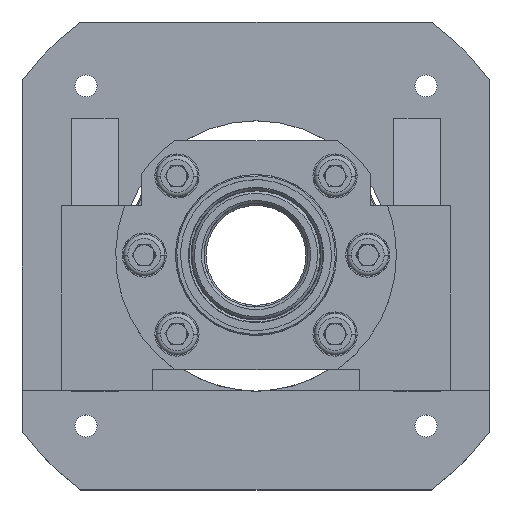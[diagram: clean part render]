
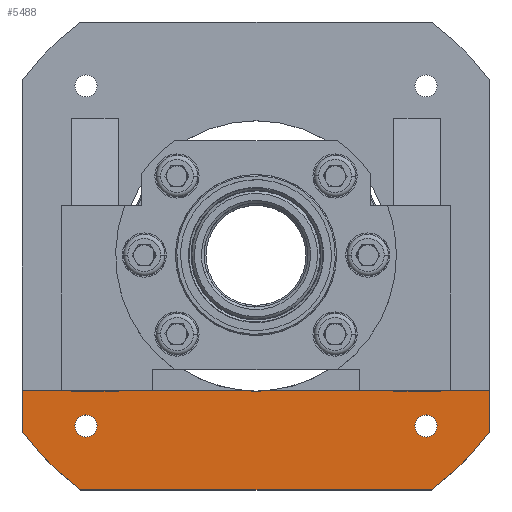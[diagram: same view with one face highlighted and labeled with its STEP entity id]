
A CAD part, top view. The second image highlights one B-rep face of the part: STEP entity #5488.
In plain terms, the highlighted planar face has unit normal (0, 0, 1).
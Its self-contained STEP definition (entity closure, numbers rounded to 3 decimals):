
#760 = ORIENTED_EDGE ( 'NONE', *, *, #22016, .T. ) ;
#838 = CIRCLE ( 'NONE', #15883, 52. ) ;
#989 = DIRECTION ( 'NONE',  ( 0., -1., 0. ) ) ;
#1119 = CIRCLE ( 'NONE', #3316, 112.5 ) ;
#1283 = CARTESIAN_POINT ( 'NONE',  ( 69.657, -65.407, 21. ) ) ;
#1373 = DIRECTION ( 'NONE',  ( 1., 0., 0. ) ) ;
#1604 = CARTESIAN_POINT ( 'NONE',  ( -67.5, -90., 21. ) ) ;
#1749 = VERTEX_POINT ( 'NONE', #4691 ) ;
#2008 = DIRECTION ( 'NONE',  ( 1., 0., 0. ) ) ;
#2418 = VECTOR ( 'NONE', #6231, 1000. ) ;
#2742 = CARTESIAN_POINT ( 'NONE',  ( 90., -51.7, 21. ) ) ;
#2813 = VERTEX_POINT ( 'NONE', #19422 ) ;
#2911 = FACE_BOUND ( 'NONE', #22142, .T. ) ;
#3316 = AXIS2_PLACEMENT_3D ( 'NONE', #25934, #13760, #1373 ) ;
#3357 = ORIENTED_EDGE ( 'NONE', *, *, #20098, .T. ) ;
#3571 = CARTESIAN_POINT ( 'NONE',  ( 61.157, -65.407, 21. ) ) ;
#4691 = CARTESIAN_POINT ( 'NONE',  ( 5.578, -51.7, 21. ) ) ;
#5488 = ADVANCED_FACE ( 'NONE', ( #13906, #2911, #18614 ), #17020, .T. ) ;
#5585 = VERTEX_POINT ( 'NONE', #2742 ) ;
#5609 = VERTEX_POINT ( 'NONE', #11186 ) ;
#5777 = VERTEX_POINT ( 'NONE', #25671 ) ;
#5828 = EDGE_LOOP ( 'NONE', ( #14633, #9840 ) ) ;
#5883 = VERTEX_POINT ( 'NONE', #1283 ) ;
#6231 = DIRECTION ( 'NONE',  ( 0., 1., 0. ) ) ;
#6312 = AXIS2_PLACEMENT_3D ( 'NONE', #23877, #11732, #25922 ) ;
#6809 = CIRCLE ( 'NONE', #6312, 4.25 ) ;
#6870 = DIRECTION ( 'NONE',  ( 1., 0., 0. ) ) ;
#6951 = DIRECTION ( 'NONE',  ( 0., 0., 1. ) ) ;
#6990 = EDGE_CURVE ( 'NONE', #10361, #8032, #6809, .T. ) ;
#7435 = DIRECTION ( 'NONE',  ( 0., 0., 1. ) ) ;
#7470 = DIRECTION ( 'NONE',  ( 1., 0., 0. ) ) ;
#7624 = ORIENTED_EDGE ( 'NONE', *, *, #17397, .T. ) ;
#8032 = VERTEX_POINT ( 'NONE', #25886 ) ;
#8223 = CARTESIAN_POINT ( 'NONE',  ( 0., 0., 21. ) ) ;
#8630 = LINE ( 'NONE', #18441, #2418 ) ;
#8843 = DIRECTION ( 'NONE',  ( 0., 0., -1. ) ) ;
#9840 = ORIENTED_EDGE ( 'NONE', *, *, #25265, .F. ) ;
#10280 = DIRECTION ( 'NONE',  ( 1., 0., 0. ) ) ;
#10361 = VERTEX_POINT ( 'NONE', #15496 ) ;
#10452 = EDGE_CURVE ( 'NONE', #1749, #5585, #11953, .T. ) ;
#10569 = CARTESIAN_POINT ( 'NONE',  ( 90., -67.5, 21. ) ) ;
#10846 = ORIENTED_EDGE ( 'NONE', *, *, #21776, .T. ) ;
#11155 = ORIENTED_EDGE ( 'NONE', *, *, #6990, .F. ) ;
#11186 = CARTESIAN_POINT ( 'NONE',  ( -90., -67.5, 21. ) ) ;
#11288 = VECTOR ( 'NONE', #7470, 1000. ) ;
#11732 = DIRECTION ( 'NONE',  ( 0., 0., 1. ) ) ;
#11761 = CARTESIAN_POINT ( 'NONE',  ( 67.5, -90., 21. ) ) ;
#11953 = LINE ( 'NONE', #23681, #11288 ) ;
#12545 = DIRECTION ( 'NONE',  ( 1., 0., 0. ) ) ;
#13760 = DIRECTION ( 'NONE',  ( 0., 0., 1. ) ) ;
#13906 = FACE_BOUND ( 'NONE', #5828, .T. ) ;
#14219 = EDGE_CURVE ( 'NONE', #14330, #5585, #8630, .T. ) ;
#14330 = VERTEX_POINT ( 'NONE', #10569 ) ;
#14370 = DIRECTION ( 'NONE',  ( 0., 0., 1. ) ) ;
#14388 = DIRECTION ( 'NONE',  ( 1., 0., 0. ) ) ;
#14633 = ORIENTED_EDGE ( 'NONE', *, *, #17280, .F. ) ;
#15412 = CARTESIAN_POINT ( 'NONE',  ( -90., 90., 21. ) ) ;
#15496 = CARTESIAN_POINT ( 'NONE',  ( -61.157, -65.407, 21. ) ) ;
#15696 = CIRCLE ( 'NONE', #25614, 112.5 ) ;
#15883 = AXIS2_PLACEMENT_3D ( 'NONE', #20985, #8843, #23103 ) ;
#15941 = VERTEX_POINT ( 'NONE', #1604 ) ;
#16853 = ORIENTED_EDGE ( 'NONE', *, *, #22538, .F. ) ;
#17020 = PLANE ( 'NONE',  #23419 ) ;
#17146 = ORIENTED_EDGE ( 'NONE', *, *, #23402, .T. ) ;
#17280 = EDGE_CURVE ( 'NONE', #18780, #5883, #20439, .T. ) ;
#17397 = EDGE_CURVE ( 'NONE', #15941, #25491, #23370, .T. ) ;
#17910 = VECTOR ( 'NONE', #12545, 1000. ) ;
#18438 = CIRCLE ( 'NONE', #21161, 4.25 ) ;
#18441 = CARTESIAN_POINT ( 'NONE',  ( 90., 90., 21. ) ) ;
#18614 = FACE_OUTER_BOUND ( 'NONE', #19544, .T. ) ;
#18780 = VERTEX_POINT ( 'NONE', #3571 ) ;
#18785 = AXIS2_PLACEMENT_3D ( 'NONE', #19131, #6951, #21187 ) ;
#19045 = DIRECTION ( 'NONE',  ( 0., 0., 1. ) ) ;
#19131 = CARTESIAN_POINT ( 'NONE',  ( 65.407, -65.407, 21. ) ) ;
#19422 = CARTESIAN_POINT ( 'NONE',  ( -90., -51.7, 21. ) ) ;
#19544 = EDGE_LOOP ( 'NONE', ( #760, #17146, #7624, #3357, #25155, #20969, #10846, #16853 ) ) ;
#19585 = CARTESIAN_POINT ( 'NONE',  ( -65.407, -65.407, 21. ) ) ;
#20098 = EDGE_CURVE ( 'NONE', #25491, #14330, #15696, .T. ) ;
#20439 = CIRCLE ( 'NONE', #23689, 4.25 ) ;
#20722 = LINE ( 'NONE', #15412, #26180 ) ;
#20969 = ORIENTED_EDGE ( 'NONE', *, *, #10452, .F. ) ;
#20985 = CARTESIAN_POINT ( 'NONE',  ( 0., 0., 21. ) ) ;
#21008 = CARTESIAN_POINT ( 'NONE',  ( -104.626, -112., 21. ) ) ;
#21027 = VECTOR ( 'NONE', #14388, 1000. ) ;
#21161 = AXIS2_PLACEMENT_3D ( 'NONE', #19585, #7435, #21652 ) ;
#21187 = DIRECTION ( 'NONE',  ( 1., 0., 0. ) ) ;
#21285 = CIRCLE ( 'NONE', #18785, 4.25 ) ;
#21652 = DIRECTION ( 'NONE',  ( 1., 0., 0. ) ) ;
#21776 = EDGE_CURVE ( 'NONE', #1749, #5777, #838, .T. ) ;
#22016 = EDGE_CURVE ( 'NONE', #2813, #5609, #20722, .T. ) ;
#22142 = EDGE_LOOP ( 'NONE', ( #26102, #11155 ) ) ;
#22480 = DIRECTION ( 'NONE',  ( 0., 0., 1. ) ) ;
#22538 = EDGE_CURVE ( 'NONE', #2813, #5777, #26478, .T. ) ;
#23103 = DIRECTION ( 'NONE',  ( 1., 0., 0. ) ) ;
#23370 = LINE ( 'NONE', #24705, #17910 ) ;
#23402 = EDGE_CURVE ( 'NONE', #5609, #15941, #1119, .T. ) ;
#23419 = AXIS2_PLACEMENT_3D ( 'NONE', #21008, #19045, #6870 ) ;
#23681 = CARTESIAN_POINT ( 'NONE',  ( -104.626, -51.7, 21. ) ) ;
#23689 = AXIS2_PLACEMENT_3D ( 'NONE', #26567, #14370, #2008 ) ;
#23789 = EDGE_CURVE ( 'NONE', #8032, #10361, #18438, .T. ) ;
#23877 = CARTESIAN_POINT ( 'NONE',  ( -65.407, -65.407, 21. ) ) ;
#24705 = CARTESIAN_POINT ( 'NONE',  ( -90., -90., 21. ) ) ;
#25155 = ORIENTED_EDGE ( 'NONE', *, *, #14219, .T. ) ;
#25265 = EDGE_CURVE ( 'NONE', #5883, #18780, #21285, .T. ) ;
#25491 = VERTEX_POINT ( 'NONE', #11761 ) ;
#25614 = AXIS2_PLACEMENT_3D ( 'NONE', #8223, #22480, #10280 ) ;
#25671 = CARTESIAN_POINT ( 'NONE',  ( -5.578, -51.7, 21. ) ) ;
#25886 = CARTESIAN_POINT ( 'NONE',  ( -69.657, -65.407, 21. ) ) ;
#25922 = DIRECTION ( 'NONE',  ( 1., 0., 0. ) ) ;
#25934 = CARTESIAN_POINT ( 'NONE',  ( 0., 0., 21. ) ) ;
#26102 = ORIENTED_EDGE ( 'NONE', *, *, #23789, .F. ) ;
#26180 = VECTOR ( 'NONE', #989, 1000. ) ;
#26478 = LINE ( 'NONE', #26586, #21027 ) ;
#26567 = CARTESIAN_POINT ( 'NONE',  ( 65.407, -65.407, 21. ) ) ;
#26586 = CARTESIAN_POINT ( 'NONE',  ( -104.626, -51.7, 21. ) ) ;
